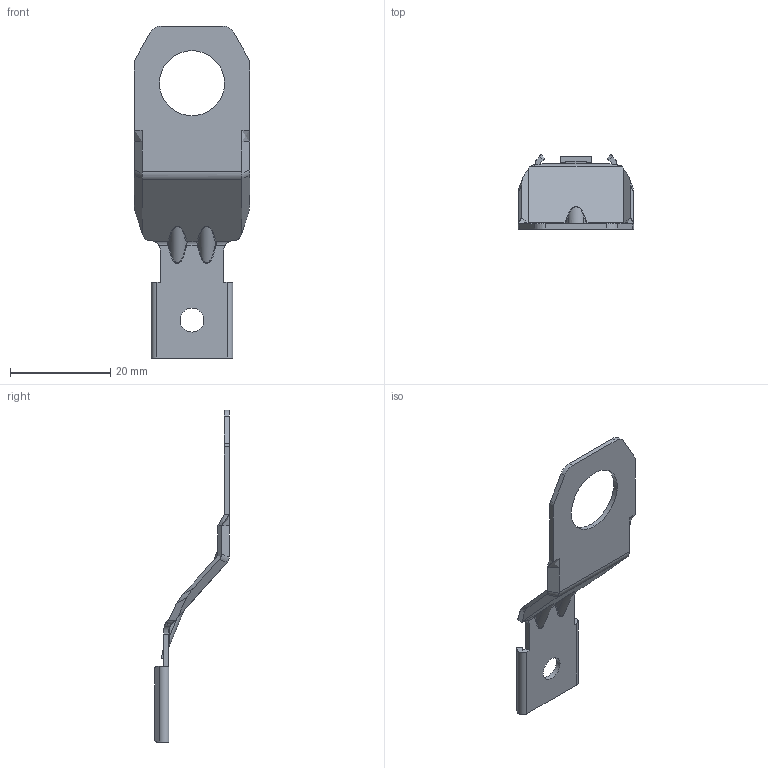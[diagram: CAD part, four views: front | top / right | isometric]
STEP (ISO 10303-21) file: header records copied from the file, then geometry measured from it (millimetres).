
FILE_DESCRIPTION((''),'2;1');
FILE_NAME('C-1027-002-0800','2013-05-02T',('workeradm'),('Tyco Electronics Ltd.'),'PRO/ENGINEER BY PARAMETRIC TECHNOLOGY CORPORATION, 2011490','PRO/ENGINEER BY PARAMETRIC TECHNOLOGY CORPORATION, 2011490','');
FILE_SCHEMA(('AUTOMOTIVE_DESIGN { 1 0 10303 214 1 1 1 1 }'));
Length unit declared in the file: millimetre
Products named in the file (1): C-1027-002-0800
Bounding box: 23.06 x 14.92 x 66.31 mm (x, y, z)
Volume: 1385.5 mm3; surface area: 2899.4 mm2
Topology: 1 solids, 1 shells, 122 faces, 321 edges, 202 vertices
Faces by surface type: plane 54, cylinder 48, bspline 20
Entity records: 5186 total; most frequent: CARTESIAN_POINT 1932, ORIENTED_EDGE 642, DIRECTION 537, EDGE_CURVE 321, VERTEX_POINT 202, VECTOR 197, LINE 197, AXIS2_PLACEMENT_3D 170
